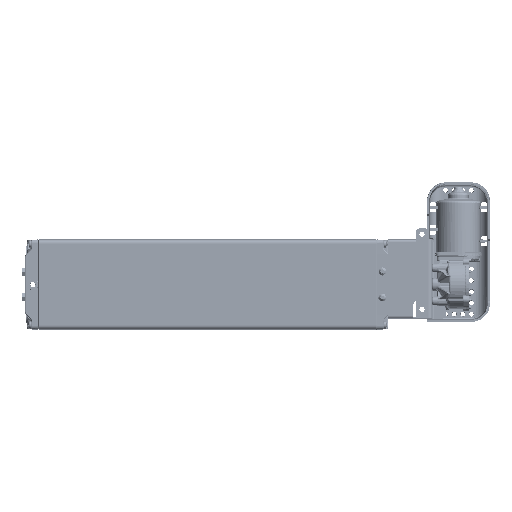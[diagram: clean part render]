
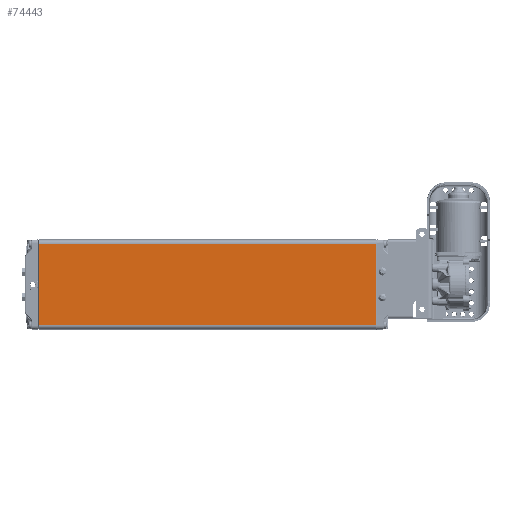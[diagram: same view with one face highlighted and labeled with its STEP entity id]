
A CAD part, top view. The second image highlights one B-rep face of the part: STEP entity #74443.
In plain terms, the highlighted planar face has unit normal (0, 0, 1).
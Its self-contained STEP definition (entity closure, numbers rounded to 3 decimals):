
#7083=LINE('',#125693,#10106);
#7084=LINE('',#125696,#10107);
#7085=LINE('',#125698,#10108);
#7086=LINE('',#125700,#10109);
#10106=VECTOR('',#86867,1000.);
#10107=VECTOR('',#86868,1000.);
#10108=VECTOR('',#86869,1000.);
#10109=VECTOR('',#86870,1000.);
#17808=ORIENTED_EDGE('',*,*,#34867,.T.);
#17809=ORIENTED_EDGE('',*,*,#34868,.T.);
#17810=ORIENTED_EDGE('',*,*,#34869,.T.);
#17811=ORIENTED_EDGE('',*,*,#34870,.T.);
#34867=EDGE_CURVE('',#43622,#43623,#7083,.F.);
#34868=EDGE_CURVE('',#43623,#43624,#7084,.T.);
#34869=EDGE_CURVE('',#43624,#43625,#7085,.T.);
#34870=EDGE_CURVE('',#43625,#43622,#7086,.F.);
#43622=VERTEX_POINT('',#125694);
#43623=VERTEX_POINT('',#125695);
#43624=VERTEX_POINT('',#125697);
#43625=VERTEX_POINT('',#125699);
#52034=EDGE_LOOP('',(#17808,#17809,#17810,#17811));
#56631=FACE_BOUND('',#52034,.T.);
#60386=PLANE('',#78938);
#74443=ADVANCED_FACE('',(#56631),#60386,.T.);
#78938=AXIS2_PLACEMENT_3D('',#125692,#86865,#86866);
#86865=DIRECTION('',(0.,0.,1.));
#86866=DIRECTION('',(1.,0.,0.));
#86867=DIRECTION('',(0.,-1.,0.));
#86868=DIRECTION('',(-1.,0.,0.));
#86869=DIRECTION('',(0.,-1.,0.));
#86870=DIRECTION('',(-1.,0.,0.));
#125692=CARTESIAN_POINT('',(60.,450.5,30.));
#125693=CARTESIAN_POINT('',(54.,450.5,30.));
#125694=CARTESIAN_POINT('',(54.,0.5,30.));
#125695=CARTESIAN_POINT('',(54.,450.,30.));
#125696=CARTESIAN_POINT('',(60.,450.,30.));
#125697=CARTESIAN_POINT('',(-54.,450.,30.));
#125698=CARTESIAN_POINT('',(-54.,450.5,30.));
#125699=CARTESIAN_POINT('',(-54.,0.5,30.));
#125700=CARTESIAN_POINT('',(54.,0.5,30.));
